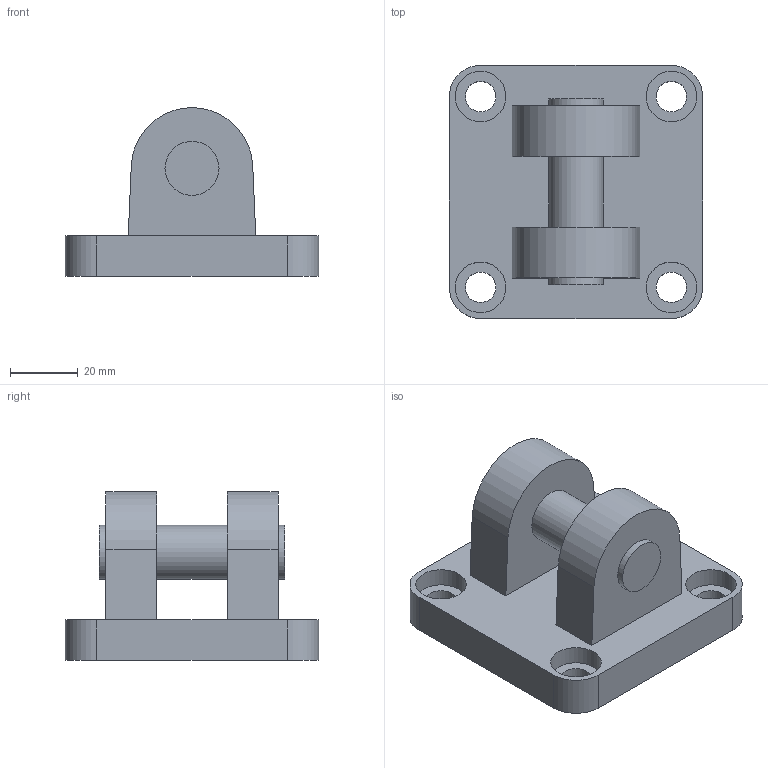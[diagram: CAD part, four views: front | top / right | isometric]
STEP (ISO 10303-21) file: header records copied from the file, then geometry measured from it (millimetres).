
FILE_DESCRIPTION((''),'2;1');
FILE_NAME('K:\A-Roberto\_Inventor\Rev.Librerie\FISSAGGI\1320_Ø_29F\STEP(1320_Ø_29F)\1320_63_29F.stp','2006-07-12T14:12:29',('rivolro1'),(''),'Autodesk Inventor 11','Autodesk Inventor 11','');
FILE_SCHEMA(('AUTOMOTIVE_DESIGN { 1 0 10303 214 1 1 1 1 }'));
Length unit declared in the file: millimetre
Products named in the file (1): 1320_63_29F
Bounding box: 75 x 75 x 50 mm (x, y, z)
Volume: 95566.4 mm3; surface area: 24088.8 mm2
Topology: 1 solids, 1 shells, 39 faces, 84 edges, 56 vertices
Faces by surface type: plane 16, bspline 14, cylinder 9
Full cylindrical faces by diameter (mm): 16 x3
Entity records: 1174 total; most frequent: CARTESIAN_POINT 336, DIRECTION 160, ORIENTED_EDGE 144, EDGE_CURVE 72, EDGE_LOOP 70, AXIS2_PLACEMENT_3D 62, VERTEX_POINT 56, FACE_OUTER_BOUND 39
